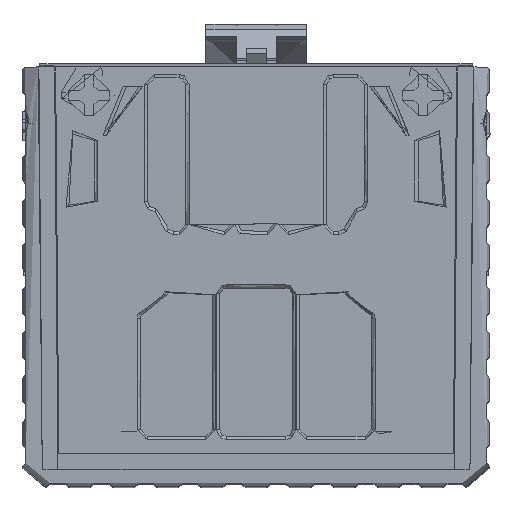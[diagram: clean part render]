
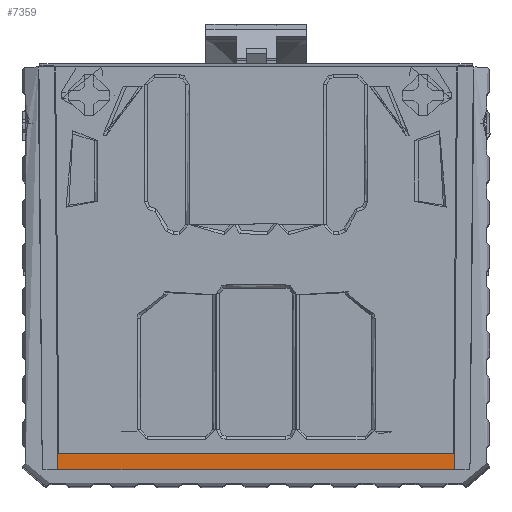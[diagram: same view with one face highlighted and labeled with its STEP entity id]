
A CAD part, top view. The second image highlights one B-rep face of the part: STEP entity #7359.
In plain terms, the highlighted free-form (B-spline) face has degree [1, 1] with [2, 2] control points.
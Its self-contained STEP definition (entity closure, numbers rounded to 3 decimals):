
#7359=ADVANCED_FACE('',(#10019),#58640,.T.);
#10019=FACE_OUTER_BOUND('',#12745,.T.);
#12745=EDGE_LOOP('',(#20499,#20500,#20501,#20502,#20503,#20504));
#20499=ORIENTED_EDGE('',*,*,#33273,.T.);
#20500=ORIENTED_EDGE('',*,*,#33274,.T.);
#20501=ORIENTED_EDGE('',*,*,#30724,.F.);
#20502=ORIENTED_EDGE('',*,*,#30723,.F.);
#20503=ORIENTED_EDGE('',*,*,#30722,.F.);
#20504=ORIENTED_EDGE('',*,*,#33275,.T.);
#30722=EDGE_CURVE('',#49652,#49653,#41764,.T.);
#30723=EDGE_CURVE('',#49653,#49654,#41765,.T.);
#30724=EDGE_CURVE('',#49654,#49655,#41766,.T.);
#33273=EDGE_CURVE('',#51359,#51358,#44086,.T.);
#33274=EDGE_CURVE('',#51358,#49655,#44087,.T.);
#33275=EDGE_CURVE('',#49652,#51359,#44088,.T.);
#41764=B_SPLINE_CURVE_WITH_KNOTS('',1,(#74046,#74047),.UNSPECIFIED.,.F.,
 .F.,(2,2),(-0.06,0.),.UNSPECIFIED.);
#41765=B_SPLINE_CURVE_WITH_KNOTS('',1,(#74048,#74049),.UNSPECIFIED.,.F.,
 .F.,(2,2),(-1.,0.),.UNSPECIFIED.);
#41766=B_SPLINE_CURVE_WITH_KNOTS('',1,(#74050,#74051),.UNSPECIFIED.,.F.,
 .F.,(2,2),(0.,0.06),.UNSPECIFIED.);
#44086=B_SPLINE_CURVE_WITH_KNOTS('',1,(#84084,#84085),.UNSPECIFIED.,.F.,
 .F.,(2,2),(0.,1.),.UNSPECIFIED.);
#44087=B_SPLINE_CURVE_WITH_KNOTS('',1,(#84086,#84087),.UNSPECIFIED.,.F.,
 .F.,(2,2),(2.098,4.598),.UNSPECIFIED.);
#44088=B_SPLINE_CURVE_WITH_KNOTS('',1,(#84088,#84089),.UNSPECIFIED.,.F.,
 .F.,(2,2),(-4.598,-2.098),.UNSPECIFIED.);
#49652=VERTEX_POINT('',#72041);
#49653=VERTEX_POINT('',#72042);
#49654=VERTEX_POINT('',#72043);
#49655=VERTEX_POINT('',#72044);
#51358=VERTEX_POINT('',#73747);
#51359=VERTEX_POINT('',#73748);
#58640=B_SPLINE_SURFACE_WITH_KNOTS('',1,1,((#71766,#71767),(#71768,#71769)),
 .UNSPECIFIED.,.F.,.F.,.F.,(2,2),(2,2),(0.,1.),(2.098,4.598),
 .UNSPECIFIED.);
#71766=CARTESIAN_POINT('',(781.405,211.412,37.));
#71767=CARTESIAN_POINT('',(781.385,208.912,37.));
#71768=CARTESIAN_POINT('',(722.064,211.412,37.));
#71769=CARTESIAN_POINT('',(722.085,208.912,37.));
#72041=CARTESIAN_POINT('',(781.385,208.912,37.));
#72042=CARTESIAN_POINT('',(781.235,208.912,37.));
#72043=CARTESIAN_POINT('',(722.235,208.912,37.));
#72044=CARTESIAN_POINT('',(722.085,208.912,37.));
#73747=CARTESIAN_POINT('',(722.064,211.412,37.));
#73748=CARTESIAN_POINT('',(781.405,211.412,37.));
#74046=CARTESIAN_POINT('',(781.385,208.912,37.));
#74047=CARTESIAN_POINT('',(781.235,208.912,37.));
#74048=CARTESIAN_POINT('',(781.235,208.912,37.));
#74049=CARTESIAN_POINT('',(722.235,208.912,37.));
#74050=CARTESIAN_POINT('',(722.235,208.912,37.));
#74051=CARTESIAN_POINT('',(722.085,208.912,37.));
#84084=CARTESIAN_POINT('',(781.405,211.412,37.));
#84085=CARTESIAN_POINT('',(722.064,211.412,37.));
#84086=CARTESIAN_POINT('',(722.064,211.412,37.));
#84087=CARTESIAN_POINT('',(722.085,208.912,37.));
#84088=CARTESIAN_POINT('',(781.385,208.912,37.));
#84089=CARTESIAN_POINT('',(781.405,211.412,37.));
